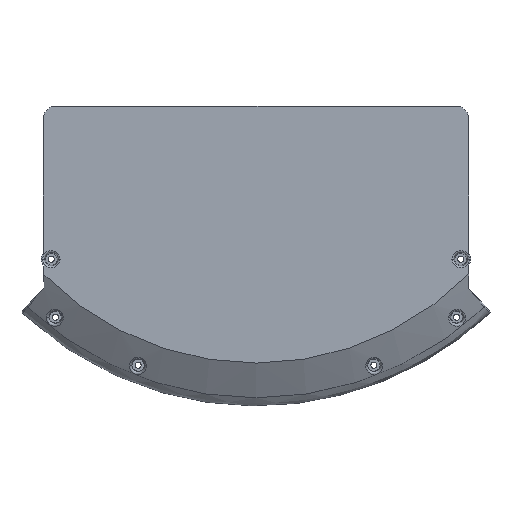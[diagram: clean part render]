
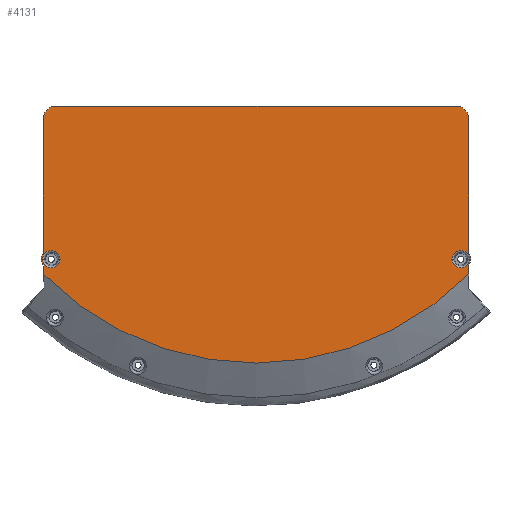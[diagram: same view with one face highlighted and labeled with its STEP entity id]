
A CAD part, front view. The second image highlights one B-rep face of the part: STEP entity #4131.
In plain terms, the highlighted planar face has unit normal (0, -1, 0).
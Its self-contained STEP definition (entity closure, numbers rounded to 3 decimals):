
#2=CARTESIAN_POINT('',(-99.,-29.,-94.));
#3=DIRECTION('',(0.,1.,0.));
#4=DIRECTION('',(1.,0.,0.));
#5=AXIS2_PLACEMENT_3D('',#2,#3,#4);
#7=CARTESIAN_POINT('',(-99.,-29.,-94.));
#8=DIRECTION('',(0.,1.,0.));
#9=DIRECTION('',(-1.,0.,0.));
#10=AXIS2_PLACEMENT_3D('',#7,#8,#9);
#12=CARTESIAN_POINT('',(99.,-29.,-94.));
#13=DIRECTION('',(0.,1.,0.));
#14=DIRECTION('',(-1.,0.,0.));
#15=AXIS2_PLACEMENT_3D('',#12,#13,#14);
#17=CARTESIAN_POINT('',(99.,-29.,-94.));
#18=DIRECTION('',(0.,1.,0.));
#19=DIRECTION('',(1.,0.,0.));
#20=AXIS2_PLACEMENT_3D('',#17,#18,#19);
#22=CARTESIAN_POINT('',(96.837,-29.,-26.));
#23=DIRECTION('',(0.,-1.,0.));
#24=DIRECTION('',(1.,0.,0.));
#25=AXIS2_PLACEMENT_3D('',#22,#23,#24);
#27=DIRECTION('',(0.,0.,-1.));
#28=VECTOR('',#27,65.113);
#29=CARTESIAN_POINT('',(102.881,-29.,-26.));
#30=LINE('',#29,#28);
#31=CARTESIAN_POINT('',(99.,-29.,-94.));
#32=DIRECTION('',(0.,-1.,0.));
#33=DIRECTION('',(0.793,0.,-0.609));
#34=AXIS2_PLACEMENT_3D('',#31,#32,#33);
#36=DIRECTION('',(0.,0.,-1.));
#37=VECTOR('',#36,4.162);
#38=CARTESIAN_POINT('',(102.837,-29.,-96.945));
#39=LINE('',#38,#37);
#40=CARTESIAN_POINT('',(0.,-29.,0.));
#41=DIRECTION('',(0.,-1.,0.));
#42=DIRECTION('',(-0.711,0.,-0.703));
#43=AXIS2_PLACEMENT_3D('',#40,#41,#42);
#45=DIRECTION('',(0.,0.,-1.));
#46=VECTOR('',#45,4.112);
#47=CARTESIAN_POINT('',(-102.544,-29.,-97.292));
#48=LINE('',#47,#46);
#49=CARTESIAN_POINT('',(-99.,-29.,-94.));
#50=DIRECTION('',(0.,1.,0.));
#51=DIRECTION('',(-0.733,0.,-0.681));
#52=AXIS2_PLACEMENT_3D('',#49,#50,#51);
#54=DIRECTION('',(0.,0.,1.));
#55=VECTOR('',#54,65.113);
#56=CARTESIAN_POINT('',(-102.881,-29.,-91.113));
#57=LINE('',#56,#55);
#58=CARTESIAN_POINT('',(-96.837,-29.,-26.));
#59=DIRECTION('',(0.,-1.,0.));
#60=DIRECTION('',(0.,0.,1.));
#61=AXIS2_PLACEMENT_3D('',#58,#59,#60);
#63=DIRECTION('',(1.,0.,0.));
#64=VECTOR('',#63,193.674);
#65=CARTESIAN_POINT('',(-96.837,-29.,-19.956));
#66=LINE('',#65,#64);
#950=CARTESIAN_POINT('',(102.881,-29.,-91.113));
#1473=CARTESIAN_POINT('',(-102.881,-29.,-91.113));
#3616=CARTESIAN_POINT('',(-94.779,-29.,-94.));
#3617=CARTESIAN_POINT('',(-103.221,-29.,-94.));
#3618=VERTEX_POINT('',#3616);
#3619=VERTEX_POINT('',#3617);
#3640=CARTESIAN_POINT('',(94.779,-29.,-94.));
#3641=CARTESIAN_POINT('',(103.221,-29.,-94.));
#3642=VERTEX_POINT('',#3640);
#3643=VERTEX_POINT('',#3641);
#3778=CARTESIAN_POINT('',(102.881,-29.,-26.));
#3779=CARTESIAN_POINT('',(96.837,-29.,-19.956));
#3780=VERTEX_POINT('',#3778);
#3781=VERTEX_POINT('',#3779);
#3782=CARTESIAN_POINT('',(-96.837,-29.,-19.956));
#3783=CARTESIAN_POINT('',(-102.881,-29.,-26.));
#3784=VERTEX_POINT('',#3782);
#3785=VERTEX_POINT('',#3783);
#3815=VERTEX_POINT('',#1473);
#3817=VERTEX_POINT('',#950);
#3819=CARTESIAN_POINT('',(102.837,-29.,-96.945));
#3820=VERTEX_POINT('',#3819);
#3821=CARTESIAN_POINT('',(-102.544,-29.,-97.292));
#3822=VERTEX_POINT('',#3821);
#3982=CARTESIAN_POINT('',(-102.544,-29.,-101.405));
#3983=VERTEX_POINT('',#3982);
#3986=CARTESIAN_POINT('',(102.837,-29.,-101.107));
#3987=VERTEX_POINT('',#3986);
#4092=CARTESIAN_POINT('',(0.,-29.,0.));
#4093=DIRECTION('',(0.,-1.,0.));
#4094=DIRECTION('',(0.,0.,-1.));
#4095=AXIS2_PLACEMENT_3D('',#4092,#4093,#4094);
#4096=PLANE('',#4095);
#4098=ORIENTED_EDGE('',*,*,#4097,.F.);
#4100=ORIENTED_EDGE('',*,*,#4099,.T.);
#4102=ORIENTED_EDGE('',*,*,#4101,.F.);
#4104=ORIENTED_EDGE('',*,*,#4103,.T.);
#4106=ORIENTED_EDGE('',*,*,#4105,.F.);
#4108=ORIENTED_EDGE('',*,*,#4107,.F.);
#4110=ORIENTED_EDGE('',*,*,#4109,.T.);
#4112=ORIENTED_EDGE('',*,*,#4111,.T.);
#4114=ORIENTED_EDGE('',*,*,#4113,.F.);
#4116=ORIENTED_EDGE('',*,*,#4115,.T.);
#4117=EDGE_LOOP('',(#4098,#4100,#4102,#4104,#4106,#4108,#4110,#4112,#4114,
#4116));
#4118=FACE_OUTER_BOUND('',#4117,.F.);
#4120=ORIENTED_EDGE('',*,*,#4119,.F.);
#4122=ORIENTED_EDGE('',*,*,#4121,.F.);
#4123=EDGE_LOOP('',(#4120,#4122));
#4124=FACE_BOUND('',#4123,.F.);
#4126=ORIENTED_EDGE('',*,*,#4125,.F.);
#4128=ORIENTED_EDGE('',*,*,#4127,.F.);
#4129=EDGE_LOOP('',(#4126,#4128));
#4130=FACE_BOUND('',#4129,.F.);
#4131=ADVANCED_FACE('',(#4118,#4124,#4130),#4096,.T.);
#6=CIRCLE('',#5,4.221);
#11=CIRCLE('',#10,4.221);
#16=CIRCLE('',#15,4.221);
#21=CIRCLE('',#20,4.221);
#26=CIRCLE('',#25,6.044);
#35=CIRCLE('',#34,4.837);
#44=CIRCLE('',#43,144.215);
#53=CIRCLE('',#52,4.837);
#62=CIRCLE('',#61,6.044);
#4097=EDGE_CURVE('',#3780,#3781,#26,.T.);
#4099=EDGE_CURVE('',#3780,#3817,#30,.T.);
#4101=EDGE_CURVE('',#3820,#3817,#35,.T.);
#4103=EDGE_CURVE('',#3820,#3987,#39,.T.);
#4105=EDGE_CURVE('',#3983,#3987,#44,.T.);
#4107=EDGE_CURVE('',#3822,#3983,#48,.T.);
#4109=EDGE_CURVE('',#3822,#3815,#53,.T.);
#4111=EDGE_CURVE('',#3815,#3785,#57,.T.);
#4113=EDGE_CURVE('',#3784,#3785,#62,.T.);
#4115=EDGE_CURVE('',#3784,#3781,#66,.T.);
#4119=EDGE_CURVE('',#3642,#3643,#16,.T.);
#4121=EDGE_CURVE('',#3643,#3642,#21,.T.);
#4125=EDGE_CURVE('',#3618,#3619,#6,.T.);
#4127=EDGE_CURVE('',#3619,#3618,#11,.T.);
